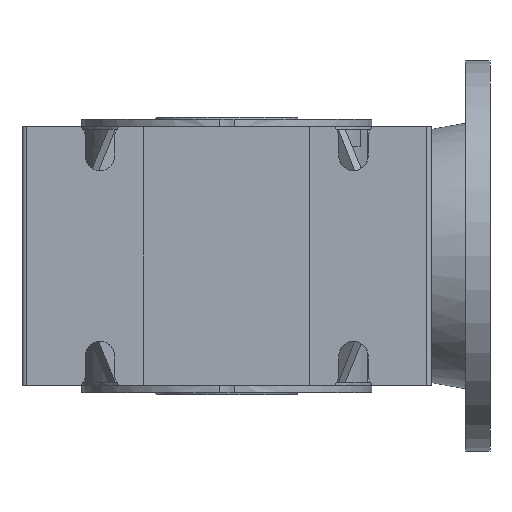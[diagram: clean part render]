
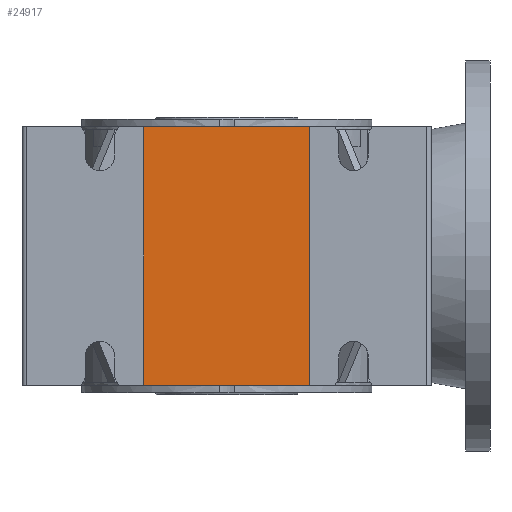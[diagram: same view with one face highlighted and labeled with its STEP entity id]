
A CAD part, front view. The second image highlights one B-rep face of the part: STEP entity #24917.
In plain terms, the highlighted planar face has unit normal (0, -1, 0).
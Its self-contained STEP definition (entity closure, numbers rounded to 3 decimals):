
#136 = PLANE ( 'NONE',  #432 ) ;
#432 = AXIS2_PLACEMENT_3D ( 'NONE', #4575, #19892, #6813 ) ;
#927 = VERTEX_POINT ( 'NONE', #21413 ) ;
#1815 = LINE ( 'NONE', #7255, #5641 ) ;
#2385 = EDGE_LOOP ( 'NONE', ( #26521, #15228, #25450, #3609 ) ) ;
#2769 = LINE ( 'NONE', #26816, #25462 ) ;
#2833 = VERTEX_POINT ( 'NONE', #26637 ) ;
#2923 = EDGE_CURVE ( 'NONE', #3657, #927, #1815, .T. ) ;
#3235 = LINE ( 'NONE', #14453, #8436 ) ;
#3260 = VERTEX_POINT ( 'NONE', #16747 ) ;
#3609 = ORIENTED_EDGE ( 'NONE', *, *, #19693, .T. ) ;
#3657 = VERTEX_POINT ( 'NONE', #18523 ) ;
#4575 = CARTESIAN_POINT ( 'NONE',  ( 0., -71.5, 0. ) ) ;
#5034 = DIRECTION ( 'NONE',  ( 0., 0., -1. ) ) ;
#5641 = VECTOR ( 'NONE', #5034, 1000. ) ;
#5747 = VECTOR ( 'NONE', #21649, 1000. ) ;
#6616 = FACE_OUTER_BOUND ( 'NONE', #2385, .T. ) ;
#6813 = DIRECTION ( 'NONE',  ( 0., 0., -1. ) ) ;
#7255 = CARTESIAN_POINT ( 'NONE',  ( -17., -71.5, 0. ) ) ;
#8436 = VECTOR ( 'NONE', #16666, 1000. ) ;
#9628 = EDGE_CURVE ( 'NONE', #2833, #3657, #2769, .T. ) ;
#14453 = CARTESIAN_POINT ( 'NONE',  ( -40.25, -71.5, -26.5 ) ) ;
#15228 = ORIENTED_EDGE ( 'NONE', *, *, #2923, .T. ) ;
#16666 = DIRECTION ( 'NONE',  ( -1., 0., 0. ) ) ;
#16747 = CARTESIAN_POINT ( 'NONE',  ( 17., -71.5, -26.5 ) ) ;
#18523 = CARTESIAN_POINT ( 'NONE',  ( -17., -71.5, 26.5 ) ) ;
#19410 = CARTESIAN_POINT ( 'NONE',  ( 17., -71.5, 0. ) ) ;
#19693 = EDGE_CURVE ( 'NONE', #3260, #2833, #23253, .T. ) ;
#19892 = DIRECTION ( 'NONE',  ( 0., -1., 0. ) ) ;
#21413 = CARTESIAN_POINT ( 'NONE',  ( -17., -71.5, -26.5 ) ) ;
#21590 = EDGE_CURVE ( 'NONE', #3260, #927, #3235, .T. ) ;
#21649 = DIRECTION ( 'NONE',  ( 0., 0., 1. ) ) ;
#22090 = DIRECTION ( 'NONE',  ( -1., 0., 0. ) ) ;
#23253 = LINE ( 'NONE', #19410, #5747 ) ;
#24917 = ADVANCED_FACE ( 'NONE', ( #6616 ), #136, .T. ) ;
#25450 = ORIENTED_EDGE ( 'NONE', *, *, #21590, .F. ) ;
#25462 = VECTOR ( 'NONE', #22090, 1000. ) ;
#26521 = ORIENTED_EDGE ( 'NONE', *, *, #9628, .T. ) ;
#26637 = CARTESIAN_POINT ( 'NONE',  ( 17., -71.5, 26.5 ) ) ;
#26816 = CARTESIAN_POINT ( 'NONE',  ( 0., -71.5, 26.5 ) ) ;
